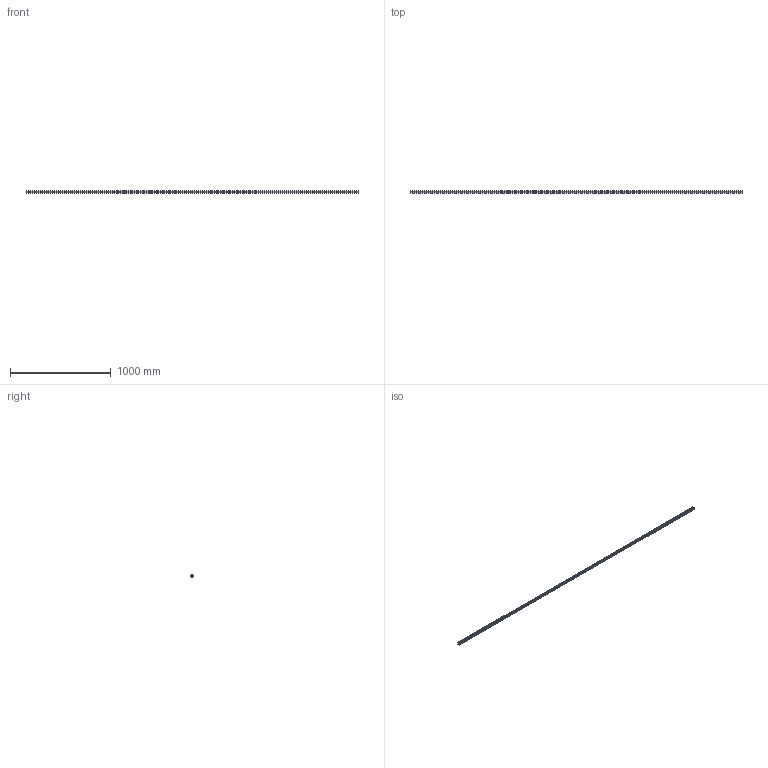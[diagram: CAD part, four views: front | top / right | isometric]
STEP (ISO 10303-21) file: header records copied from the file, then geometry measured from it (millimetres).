
FILE_DESCRIPTION (( 'STEP AP203' ), '1' );
FILE_NAME ('L1018.25R-3300.step', '2023-08-06T10:46:58', ( '' ), ( '' ), 'SwSTEP 2.0', 'SolidWorks 2019', '' );
FILE_SCHEMA (( 'CONFIG_CONTROL_DESIGN' ));
Length unit declared in the file: millimetre
Products named in the file (1): L1018.25R-3300
Bounding box: 3300 x 21.8 x 25 mm (x, y, z)
Volume: 1372430.7 mm3; surface area: 328535.2 mm2
Topology: 1 solids, 1 shells, 524 faces, 1181 edges, 659 vertices
Faces by surface type: cylinder 223, cone 220, plane 81
Entity records: 13868 total; most frequent: DIRECTION 2677, CARTESIAN_POINT 2255, ORIENTED_EDGE 2142, AXIS2_PLACEMENT_3D 1081, EDGE_CURVE 1071, VERTEX_POINT 659, EDGE_LOOP 634, CIRCLE 556
